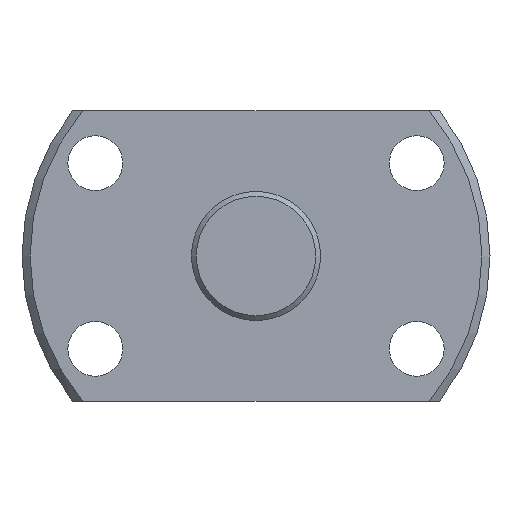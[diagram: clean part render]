
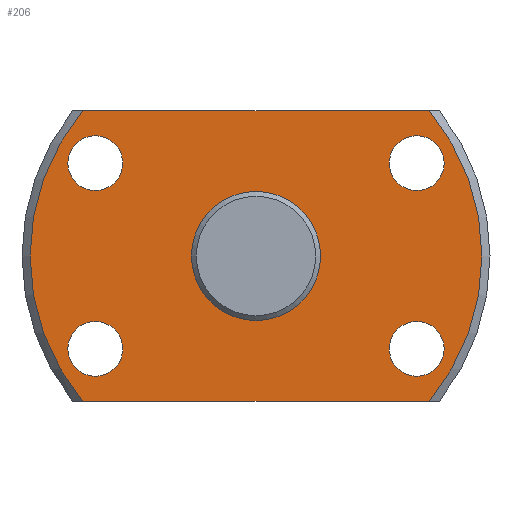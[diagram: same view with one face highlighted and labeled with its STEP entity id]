
A CAD part, left-side view. The second image highlights one B-rep face of the part: STEP entity #206.
In plain terms, the highlighted planar face has unit normal (-1, 0, 0).
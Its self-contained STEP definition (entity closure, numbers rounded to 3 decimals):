
#206 = ADVANCED_FACE( '', ( #315, #316, #317, #318, #319, #320 ), #321, .T. );
#315 = FACE_BOUND( '', #450, .T. );
#316 = FACE_OUTER_BOUND( '', #451, .T. );
#317 = FACE_BOUND( '', #452, .T. );
#318 = FACE_BOUND( '', #453, .T. );
#319 = FACE_BOUND( '', #454, .T. );
#320 = FACE_BOUND( '', #455, .T. );
#321 = PLANE( '', #456 );
#450 = EDGE_LOOP( '', ( #768 ) );
#451 = EDGE_LOOP( '', ( #769, #770, #771, #772 ) );
#452 = EDGE_LOOP( '', ( #773 ) );
#453 = EDGE_LOOP( '', ( #774 ) );
#454 = EDGE_LOOP( '', ( #775 ) );
#455 = EDGE_LOOP( '', ( #776 ) );
#456 = AXIS2_PLACEMENT_3D( '', #777, #778, #779 );
#768 = ORIENTED_EDGE( '', *, *, #998, .T. );
#769 = ORIENTED_EDGE( '', *, *, #976, .F. );
#770 = ORIENTED_EDGE( '', *, *, #995, .F. );
#771 = ORIENTED_EDGE( '', *, *, #999, .F. );
#772 = ORIENTED_EDGE( '', *, *, #1000, .F. );
#773 = ORIENTED_EDGE( '', *, *, #984, .T. );
#774 = ORIENTED_EDGE( '', *, *, #997, .T. );
#775 = ORIENTED_EDGE( '', *, *, #993, .T. );
#776 = ORIENTED_EDGE( '', *, *, #992, .T. );
#777 = CARTESIAN_POINT( '', ( 0., 14., 0. ) );
#778 = DIRECTION( '', ( -1., 0., 0. ) );
#779 = DIRECTION( '', ( 0., 0., 1. ) );
#976 = EDGE_CURVE( '', #1155, #1157, #1158, .T. );
#984 = EDGE_CURVE( '', #1171, #1171, #1172, .T. );
#992 = EDGE_CURVE( '', #1186, #1186, #1187, .T. );
#993 = EDGE_CURVE( '', #1188, #1188, #1189, .T. );
#995 = EDGE_CURVE( '', #1190, #1155, #1193, .T. );
#997 = EDGE_CURVE( '', #1195, #1195, #1196, .T. );
#998 = EDGE_CURVE( '', #1197, #1197, #1198, .T. );
#999 = EDGE_CURVE( '', #1199, #1190, #1200, .T. );
#1000 = EDGE_CURVE( '', #1157, #1199, #1201, .T. );
#1155 = VERTEX_POINT( '', #1445 );
#1157 = VERTEX_POINT( '', #1450 );
#1158 = LINE( '', #1451, #1452 );
#1171 = VERTEX_POINT( '', #1476 );
#1172 = CIRCLE( '', #1477, 1.7 );
#1186 = VERTEX_POINT( '', #1492 );
#1187 = CIRCLE( '', #1493, 1.7 );
#1188 = VERTEX_POINT( '', #1494 );
#1189 = CIRCLE( '', #1495, 1.7 );
#1190 = VERTEX_POINT( '', #1496 );
#1193 = CIRCLE( '', #1502, 14. );
#1195 = VERTEX_POINT( '', #1504 );
#1196 = CIRCLE( '', #1505, 1.7 );
#1197 = VERTEX_POINT( '', #1506 );
#1198 = CIRCLE( '', #1507, 4. );
#1199 = VERTEX_POINT( '', #1508 );
#1200 = LINE( '', #1509, #1510 );
#1201 = CIRCLE( '', #1511, 14. );
#1445 = CARTESIAN_POINT( '', ( 0., 10.724, 9. ) );
#1450 = CARTESIAN_POINT( '', ( 0., -10.724, 9. ) );
#1451 = CARTESIAN_POINT( '', ( 0., 14.5, 9. ) );
#1452 = VECTOR( '', #1683, 1000. );
#1476 = CARTESIAN_POINT( '', ( 0., 9.959, 4.05 ) );
#1477 = AXIS2_PLACEMENT_3D( '', #1692, #1693, #1694 );
#1492 = CARTESIAN_POINT( '', ( 0., 9.959, -7.45 ) );
#1493 = AXIS2_PLACEMENT_3D( '', #1714, #1715, #1716 );
#1494 = CARTESIAN_POINT( '', ( 0., -9.959, -7.45 ) );
#1495 = AXIS2_PLACEMENT_3D( '', #1717, #1718, #1719 );
#1496 = CARTESIAN_POINT( '', ( 0., 10.724, -9. ) );
#1502 = AXIS2_PLACEMENT_3D( '', #1720, #1721, #1722 );
#1504 = CARTESIAN_POINT( '', ( 0., -9.959, 4.05 ) );
#1505 = AXIS2_PLACEMENT_3D( '', #1726, #1727, #1728 );
#1506 = CARTESIAN_POINT( '', ( 0., 0., -4. ) );
#1507 = AXIS2_PLACEMENT_3D( '', #1729, #1730, #1731 );
#1508 = CARTESIAN_POINT( '', ( 0., -10.724, -9. ) );
#1509 = CARTESIAN_POINT( '', ( 0., -14.5, -9. ) );
#1510 = VECTOR( '', #1732, 1000. );
#1511 = AXIS2_PLACEMENT_3D( '', #1733, #1734, #1735 );
#1683 = DIRECTION( '', ( 0., -1., 0. ) );
#1692 = CARTESIAN_POINT( '', ( 0., 9.959, 5.75 ) );
#1693 = DIRECTION( '', ( 1., 0., 0. ) );
#1694 = DIRECTION( '', ( 0., 0., -1. ) );
#1714 = CARTESIAN_POINT( '', ( 0., 9.959, -5.75 ) );
#1715 = DIRECTION( '', ( 1., 0., 0. ) );
#1716 = DIRECTION( '', ( 0., 0., -1. ) );
#1717 = CARTESIAN_POINT( '', ( 0., -9.959, -5.75 ) );
#1718 = DIRECTION( '', ( 1., 0., 0. ) );
#1719 = DIRECTION( '', ( 0., 0., -1. ) );
#1720 = CARTESIAN_POINT( '', ( 0., 0., 0. ) );
#1721 = DIRECTION( '', ( 1., 0., 0. ) );
#1722 = DIRECTION( '', ( 0., 0., -1. ) );
#1726 = CARTESIAN_POINT( '', ( 0., -9.959, 5.75 ) );
#1727 = DIRECTION( '', ( 1., 0., 0. ) );
#1728 = DIRECTION( '', ( 0., 0., -1. ) );
#1729 = CARTESIAN_POINT( '', ( 0., 0., 0. ) );
#1730 = DIRECTION( '', ( 1., 0., 0. ) );
#1731 = DIRECTION( '', ( 0., 0., -1. ) );
#1732 = DIRECTION( '', ( 0., 1., 0. ) );
#1733 = CARTESIAN_POINT( '', ( 0., 0., 0. ) );
#1734 = DIRECTION( '', ( 1., 0., 0. ) );
#1735 = DIRECTION( '', ( 0., 0., -1. ) );
